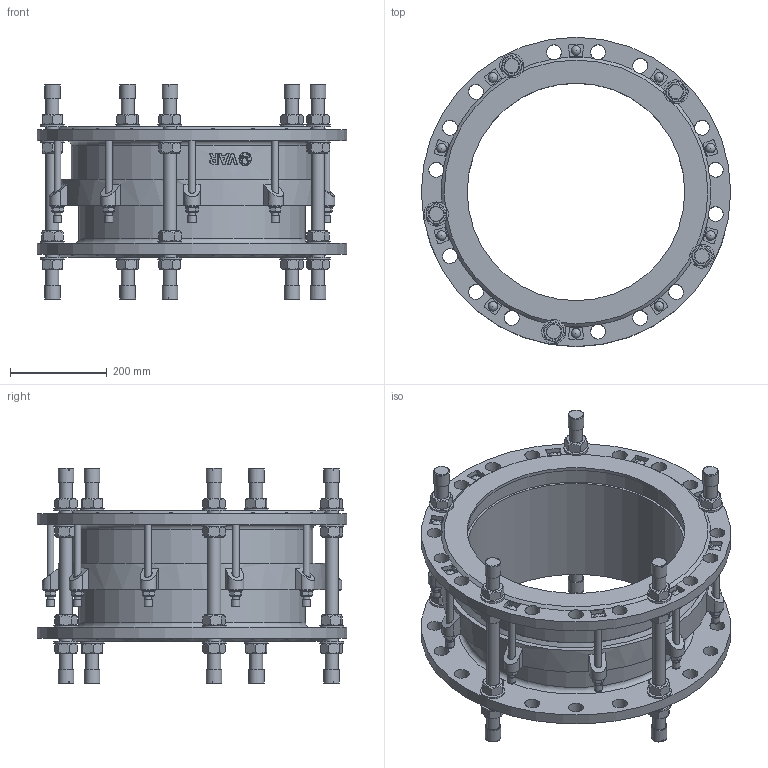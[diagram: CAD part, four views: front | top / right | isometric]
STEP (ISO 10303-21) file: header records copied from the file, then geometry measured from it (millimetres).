
FILE_DESCRIPTION(('STEP AP242'), '1');
FILE_NAME('Ìîíòàæíàÿ âñòàâêà', '', ('UNSPECIFIED'), ('UNSPECIFIED'), 'C3D Converter', 'C3D Toolkit', '');
FILE_SCHEMA(('AP242_MANAGED_MODEL_BASED_3D_ENGINEERING_MIM_LF { 1 0 10303 442 1 1 4 }'));
Length unit declared in the file: millimetre
Products named in the file (13): ШМ.М16.310
Assembly tree (99 placements, depth 2):
  (unnamed)
    (unnamed)
    (unnamed)
    (unnamed)
    (unnamed)  x20
    (unnamed)  x20
    ШМ.М16.310  x5
    (unnamed)  x10
    (unnamed)
    (unnamed)  x10
    (unnamed)  x10
    (unnamed)  x10
    (unnamed)  x10
Bounding box: 640 x 640 x 445.4 mm (x, y, z)
Volume: 16735379.4 mm3; surface area: 2856063 mm2
Topology: 99 solids, 99 shells, 1112 faces, 2520 edges, 1601 vertices
Faces by surface type: plane 656, cylinder 267, cone 146, torus 22, extrusion 11, sphere 10
Full cylindrical faces by diameter (mm): 14 x30, 15 x10, 16 x10, 16.8 x10, 27 x35, 27.455 x1, 28 x30, 31 x40, 32.4 x10, 50 x20, 450 x2, 470 x2, 480 x2, 500 x1, 520 x1, 534 x1, 554 x1, 640 x2
Entity records: 24290 total; most frequent: CARTESIAN_POINT 11496, DIRECTION 2122, ORIENTED_EDGE 1926, EDGE_CURVE 963, AXIS2_PLACEMENT_3D 846, VERTEX_POINT 696, EDGE_LOOP 591, FACE_BOUND 449
